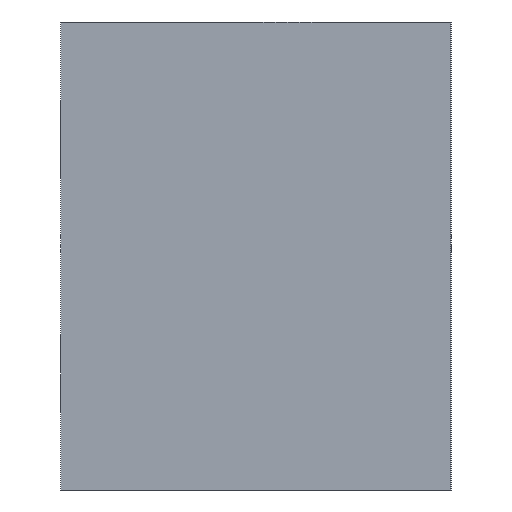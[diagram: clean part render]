
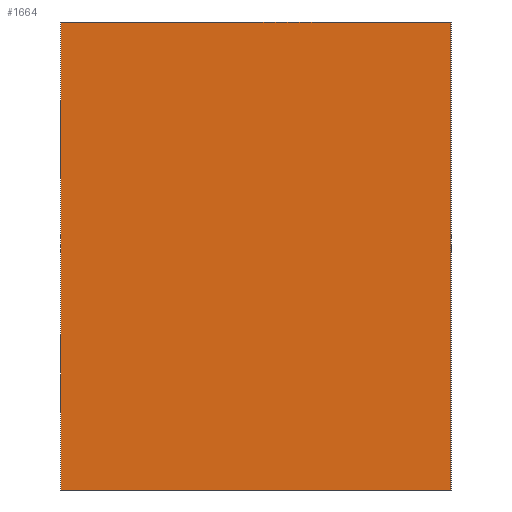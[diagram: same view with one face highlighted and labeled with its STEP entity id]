
A CAD part, left-side view. The second image highlights one B-rep face of the part: STEP entity #1664.
In plain terms, the highlighted planar face has unit normal (1, 0, 0).
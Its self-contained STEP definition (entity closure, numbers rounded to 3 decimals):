
#1625=CARTESIAN_POINT('Axis2P3D Location',(-80.,0.,0.)) ;
#1630=CARTESIAN_POINT('Line Origine',(-80.,0.,-30.)) ;
#1634=CARTESIAN_POINT('Vertex',(-80.,-12.5,-30.)) ;
#1636=CARTESIAN_POINT('Vertex',(-80.,12.5,-30.)) ;
#1639=CARTESIAN_POINT('Line Origine',(-80.,12.5,-15.)) ;
#1643=CARTESIAN_POINT('Vertex',(-80.,12.5,0.)) ;
#1646=CARTESIAN_POINT('Line Origine',(-80.,0.,0.)) ;
#1650=CARTESIAN_POINT('Vertex',(-80.,-12.5,0.)) ;
#1653=CARTESIAN_POINT('Line Origine',(-80.,-12.5,-15.)) ;
#1626=DIRECTION('Axis2P3D Direction',(1.,0.,0.)) ;
#1627=DIRECTION('Axis2P3D XDirection',(0.,1.,0.)) ;
#1631=DIRECTION('Vector Direction',(0.,1.,0.)) ;
#1640=DIRECTION('Vector Direction',(0.,0.,1.)) ;
#1647=DIRECTION('Vector Direction',(0.,-1.,0.)) ;
#1654=DIRECTION('Vector Direction',(0.,0.,-1.)) ;
#1628=AXIS2_PLACEMENT_3D('Plane Axis2P3D',#1625,#1626,#1627) ;
#1659=ORIENTED_EDGE('',*,*,#1638,.T.) ;
#1660=ORIENTED_EDGE('',*,*,#1645,.T.) ;
#1661=ORIENTED_EDGE('',*,*,#1652,.T.) ;
#1662=ORIENTED_EDGE('',*,*,#1657,.T.) ;
#1632=VECTOR('Line Direction',#1631,1.) ;
#1641=VECTOR('Line Direction',#1640,1.) ;
#1648=VECTOR('Line Direction',#1647,1.) ;
#1655=VECTOR('Line Direction',#1654,1.) ;
#1664=ADVANCED_FACE('MANIFOLD_SOLID_BREP #5494',(#1663),#1629,.T.) ;
#1638=EDGE_CURVE('',#1635,#1637,#1633,.T.) ;
#1645=EDGE_CURVE('',#1637,#1644,#1642,.T.) ;
#1652=EDGE_CURVE('',#1644,#1651,#1649,.T.) ;
#1657=EDGE_CURVE('',#1651,#1635,#1656,.T.) ;
#1658=EDGE_LOOP('',(#1659,#1660,#1661,#1662)) ;
#1663=FACE_OUTER_BOUND('',#1658,.T.) ;
#1633=LINE('Line',#1630,#1632) ;
#1642=LINE('Line',#1639,#1641) ;
#1649=LINE('Line',#1646,#1648) ;
#1656=LINE('Line',#1653,#1655) ;
#1629=PLANE('Plane',#1628) ;
#1635=VERTEX_POINT('',#1634) ;
#1637=VERTEX_POINT('',#1636) ;
#1644=VERTEX_POINT('',#1643) ;
#1651=VERTEX_POINT('',#1650) ;
